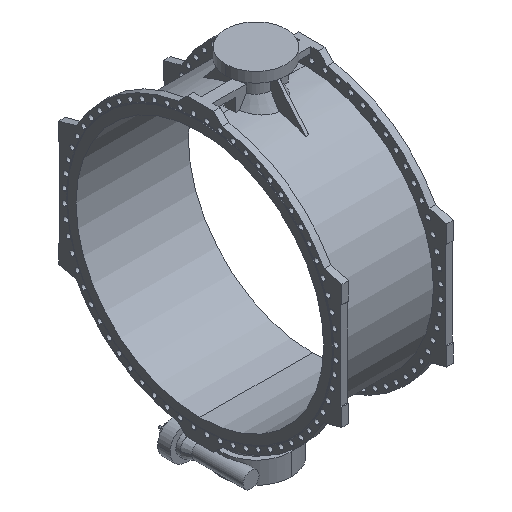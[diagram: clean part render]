
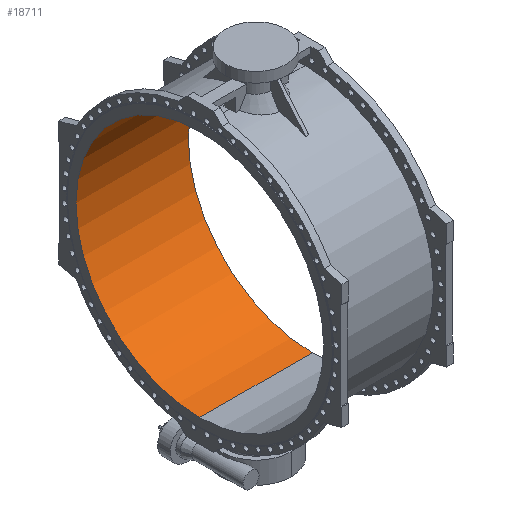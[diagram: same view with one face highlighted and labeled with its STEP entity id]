
A CAD part, isometric view. The second image highlights one B-rep face of the part: STEP entity #18711.
In plain terms, the highlighted cylindrical face has radius 1400 mm (diameter 2800 mm), a partial arc.
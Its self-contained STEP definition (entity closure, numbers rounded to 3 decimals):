
#1286 = CARTESIAN_POINT ( 'NONE',  ( 635., 0., 0. ) ) ;
#1683 = EDGE_CURVE ( 'Defeatured_0_179+Defeatured_0_66+Defeatured_0_66+Defeatured_0_66', #13444, #8755, #3221, .T. ) ;
#1791 = EDGE_CURVE ( 'Defeatured_0_39+Defeatured_0_179+Defeatured_0_179+Defeatured_0_179', #21523, #9794, #14055, .T. ) ;
#1807 = ORIENTED_EDGE ( 'NONE', *, *, #17182, .F. ) ;
#3221 = CIRCLE ( 'NONE', #3937, 1400. ) ;
#3222 = DIRECTION ( 'NONE',  ( 1., 0., 0. ) ) ;
#3937 = AXIS2_PLACEMENT_3D ( 'NONE', #1286, #12955, #4551 ) ;
#4362 = CARTESIAN_POINT ( 'NONE',  ( -635., 0., 1400. ) ) ;
#4504 = LINE ( 'NONE', #14545, #13428 ) ;
#4551 = DIRECTION ( 'NONE',  ( 0., 0., -1. ) ) ;
#5410 = AXIS2_PLACEMENT_3D ( 'NONE', #6521, #3222, #9895 ) ;
#5867 = CARTESIAN_POINT ( 'NONE',  ( -635., 0., 0. ) ) ;
#6178 = CARTESIAN_POINT ( 'NONE',  ( -635., 0., -1400. ) ) ;
#6521 = CARTESIAN_POINT ( 'NONE',  ( -635., 0., 0. ) ) ;
#6625 = FACE_OUTER_BOUND ( 'NONE', #18843, .T. ) ;
#6654 = EDGE_CURVE ( 'NONE', #21523, #13444, #4504, .T. ) ;
#8098 = ORIENTED_EDGE ( 'NONE', *, *, #6654, .T. ) ;
#8755 = VERTEX_POINT ( 'NONE', #11900 ) ;
#8826 = VECTOR ( 'NONE', #19013, 1000. ) ;
#9794 = VERTEX_POINT ( 'NONE', #16730 ) ;
#9895 = DIRECTION ( 'NONE',  ( 0., 0., -1. ) ) ;
#11553 = ORIENTED_EDGE ( 'NONE', *, *, #1791, .F. ) ;
#11900 = CARTESIAN_POINT ( 'NONE',  ( 635., 0., 1400. ) ) ;
#12955 = DIRECTION ( 'NONE',  ( 1., 0., 0. ) ) ;
#13428 = VECTOR ( 'NONE', #19055, 1000. ) ;
#13444 = VERTEX_POINT ( 'NONE', #17710 ) ;
#14055 = CIRCLE ( 'NONE', #18944, 1400. ) ;
#14545 = CARTESIAN_POINT ( 'NONE',  ( -635., 0., -1400. ) ) ;
#15331 = ORIENTED_EDGE ( 'NONE', *, *, #1683, .T. ) ;
#16730 = CARTESIAN_POINT ( 'NONE',  ( -635., 0., 1400. ) ) ;
#17182 = EDGE_CURVE ( 'NONE', #9794, #8755, #19324, .T. ) ;
#17537 = DIRECTION ( 'NONE',  ( 1., 0., 0. ) ) ;
#17710 = CARTESIAN_POINT ( 'NONE',  ( 635., 0., -1400. ) ) ;
#18711 = ADVANCED_FACE ( 'Defeatured_0_179', ( #6625 ), #19731, .F. ) ;
#18843 = EDGE_LOOP ( 'NONE', ( #1807, #11553, #8098, #15331 ) ) ;
#18944 = AXIS2_PLACEMENT_3D ( 'NONE', #5867, #17537, #20714 ) ;
#19013 = DIRECTION ( 'NONE',  ( 1., 0., 0. ) ) ;
#19055 = DIRECTION ( 'NONE',  ( 1., 0., 0. ) ) ;
#19324 = LINE ( 'NONE', #4362, #8826 ) ;
#19731 = CYLINDRICAL_SURFACE ( 'NONE', #5410, 1400. ) ;
#20714 = DIRECTION ( 'NONE',  ( 0., 0., -1. ) ) ;
#21523 = VERTEX_POINT ( 'NONE', #6178 ) ;
